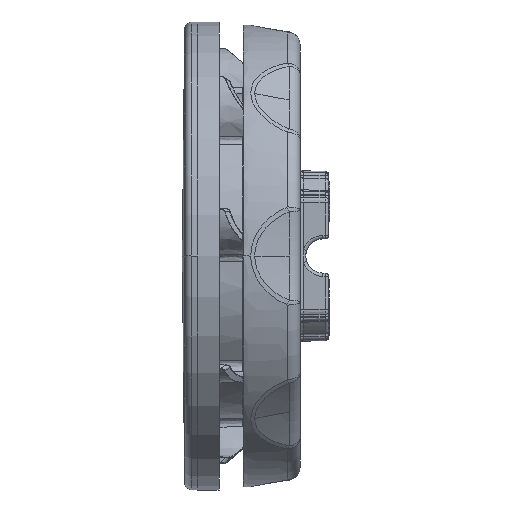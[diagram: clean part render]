
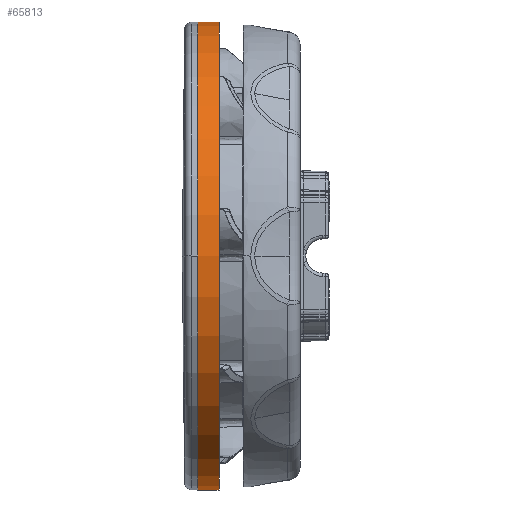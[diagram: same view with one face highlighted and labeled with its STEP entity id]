
A CAD part, left-side view. The second image highlights one B-rep face of the part: STEP entity #65813.
In plain terms, the highlighted cylindrical face has radius 52.324 mm (diameter 104.648 mm), a partial arc.
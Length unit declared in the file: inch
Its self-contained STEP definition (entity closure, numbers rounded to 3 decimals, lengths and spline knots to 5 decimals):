
#1480 = ORIENTED_EDGE ( 'NONE', *, *, #43167, .T. ) ;
#2455 = CARTESIAN_POINT ( 'NONE',  ( 0., 0.188, 0. ) ) ;
#5629 = LINE ( 'NONE', #55785, #66516 ) ;
#8429 = DIRECTION ( 'NONE',  ( 0., 0., 1. ) ) ;
#8958 = CIRCLE ( 'NONE', #23301, 2.06 ) ;
#9538 = VERTEX_POINT ( 'NONE', #54473 ) ;
#10027 = CARTESIAN_POINT ( 'NONE',  ( 0., 0., 0. ) ) ;
#10804 = LINE ( 'NONE', #37561, #56007 ) ;
#11533 = VERTEX_POINT ( 'NONE', #13433 ) ;
#13433 = CARTESIAN_POINT ( 'NONE',  ( 0., 0., 2.06 ) ) ;
#15048 = CIRCLE ( 'NONE', #52229, 2.06 ) ;
#15980 = DIRECTION ( 'NONE',  ( 0., 0., 1. ) ) ;
#19001 = VERTEX_POINT ( 'NONE', #31829 ) ;
#19387 = EDGE_CURVE ( 'NONE', #19001, #11533, #15048, .T. ) ;
#19905 = DIRECTION ( 'NONE',  ( 0., -1., 0. ) ) ;
#22684 = CYLINDRICAL_SURFACE ( 'NONE', #27178, 2.06 ) ;
#23301 = AXIS2_PLACEMENT_3D ( 'NONE', #2455, #43707, #8429 ) ;
#26397 = FACE_OUTER_BOUND ( 'NONE', #57377, .T. ) ;
#26412 = DIRECTION ( 'NONE',  ( 0., -1., 0. ) ) ;
#27178 = AXIS2_PLACEMENT_3D ( 'NONE', #55193, #19905, #54925 ) ;
#28067 = EDGE_CURVE ( 'NONE', #54305, #11533, #10804, .T. ) ;
#28079 = EDGE_CURVE ( 'NONE', #9538, #54305, #8958, .T. ) ;
#31829 = CARTESIAN_POINT ( 'NONE',  ( 0., 0., -2.06 ) ) ;
#37561 = CARTESIAN_POINT ( 'NONE',  ( 0., 0.188, 2.06 ) ) ;
#43167 = EDGE_CURVE ( 'NONE', #9538, #19001, #5629, .T. ) ;
#43707 = DIRECTION ( 'NONE',  ( 0., 1., 0. ) ) ;
#47924 = ORIENTED_EDGE ( 'NONE', *, *, #19387, .T. ) ;
#51266 = DIRECTION ( 'NONE',  ( 0., 1., 0. ) ) ;
#52229 = AXIS2_PLACEMENT_3D ( 'NONE', #10027, #51266, #15980 ) ;
#52394 = ORIENTED_EDGE ( 'NONE', *, *, #28067, .F. ) ;
#54305 = VERTEX_POINT ( 'NONE', #73908 ) ;
#54473 = CARTESIAN_POINT ( 'NONE',  ( 0., 0.188, -2.06 ) ) ;
#54925 = DIRECTION ( 'NONE',  ( 0., 0., -1. ) ) ;
#55193 = CARTESIAN_POINT ( 'NONE',  ( 0., 0.188, 0. ) ) ;
#55785 = CARTESIAN_POINT ( 'NONE',  ( 0., 0.188, -2.06 ) ) ;
#56007 = VECTOR ( 'NONE', #60759, 39.37008 ) ;
#57377 = EDGE_LOOP ( 'NONE', ( #52394, #58796, #1480, #47924 ) ) ;
#58796 = ORIENTED_EDGE ( 'NONE', *, *, #28079, .F. ) ;
#60759 = DIRECTION ( 'NONE',  ( 0., -1., 0. ) ) ;
#65813 = ADVANCED_FACE ( 'NONE', ( #26397 ), #22684, .T. ) ;
#66516 = VECTOR ( 'NONE', #26412, 39.37008 ) ;
#73908 = CARTESIAN_POINT ( 'NONE',  ( 0., 0.188, 2.06 ) ) ;
